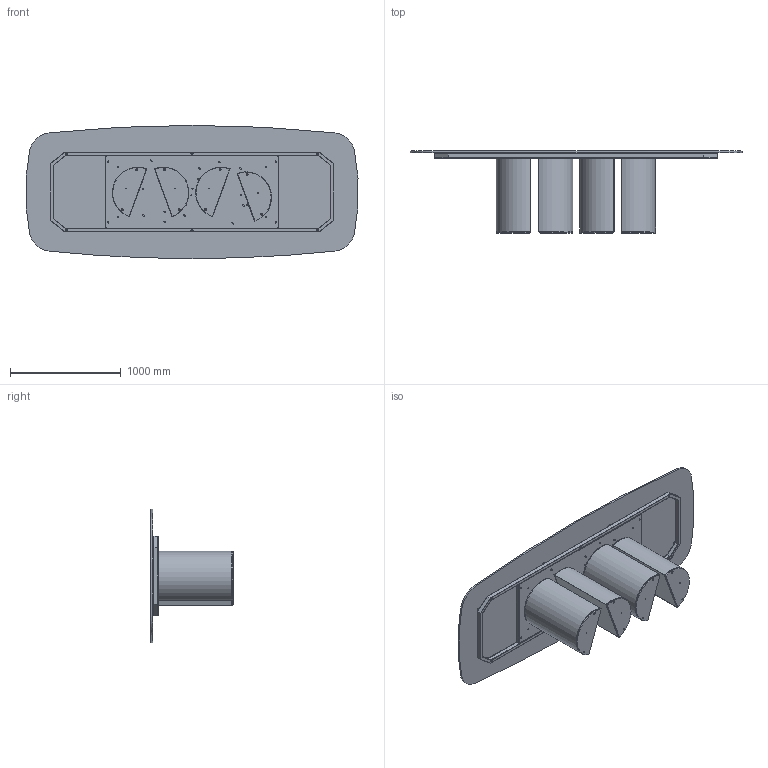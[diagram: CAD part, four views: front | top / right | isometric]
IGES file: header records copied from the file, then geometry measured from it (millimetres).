
Start section: SolidWorks IGES file using analytic representation for surfaces
Global section: file name: Y:\eforma\TECNICO\SOLIDWORKS\E-FORMA\1-TAVOLI\PLAI\02 parts\PL44G.IGS; native system: SolidWorks 2022; preprocessor: SolidWorks 2022; author: eforma.tech; date: 240807.155810; units: millimetre
Bounding box: 2991.72 x 739 x 1200 mm (x, y, z)
Volume: 67777900.3 mm3; surface area: 18571414.4 mm2
Topology: 63 solids, 63 shells, 1341 faces, 3047 edges, 1802 vertices
Faces by surface type: revolution 773, plane 568
